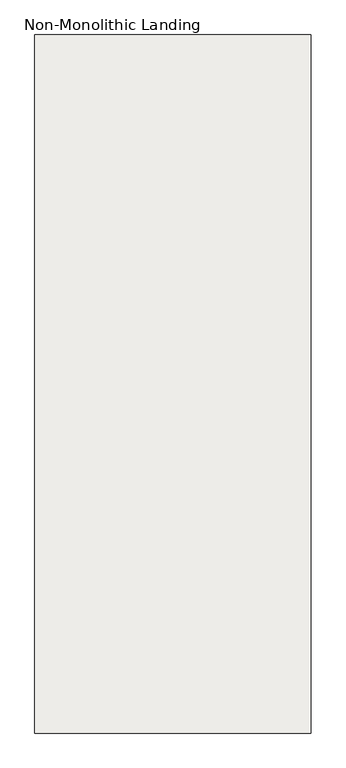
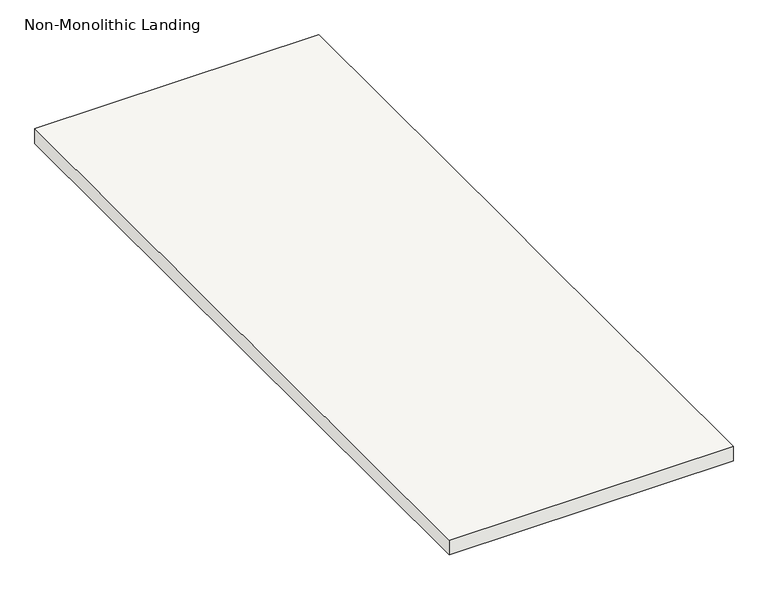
"""IFC4 building model written with IfcOpenShell, lengths in millimetres: slab geometry, Non-Monolithic Landing."""

from ifc_helpers import new_model, si_unit, frame, origin, place, context, project, spatial, polyline, outline, extrude, source, transform, mapped, element, save


def non_monolithic_landing_ebfebc9d(model_context):
    return source(origin(), model_context, "Body", "SweptSolid", [
        extrude(outline(polyline([(12383.3254798, 7369.7365306), (11468.9254798, 7369.7365306), (11468.9254798, 9681.1365306), (12383.3254798, 9681.1365306), (12383.3254798, 8614.3365306), (12383.3254798, 8436.5365306), (12383.3254798, 7369.7365306)])), frame((0.0, 0.0, -1379.1259259), z_axis=(0.0, 0.0, 1.0), x_axis=(1.0, 0.0, 0.0)), (0.0, 0.0, 1.0), 50.8),
    ])


if __name__ == "__main__":
    model = new_model("IFC4")
    model_context = context("Model", 3, world=origin())
    ifc_project = project(units=[si_unit("LENGTHUNIT", "METRE", prefix="MILLI")], contexts=[model_context])
    site = spatial("IfcSite", under=ifc_project)
    building = spatial("IfcBuilding", under=site)
    placement = place(None, origin())
    non_monolithic_landing_shape = non_monolithic_landing_ebfebc9d(model_context)
    element("IfcSlab", 1, ObjectType="Non-Monolithic Landing", at=placement, inside=building, context=model_context, shape_type="MappedRepresentation", body=[
        mapped(non_monolithic_landing_shape, transform((0.0, 0.0, 0.0), x_axis=(1.0, 0.0, 0.0), y_axis=(0.0, 1.0, 0.0), z_axis=(0.0, 0.0, 1.0))),
    ])
    save(model, "model.ifc")
